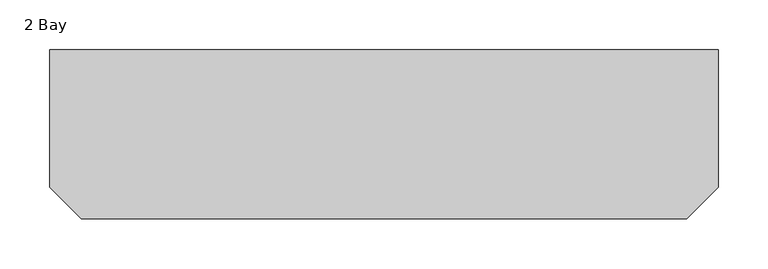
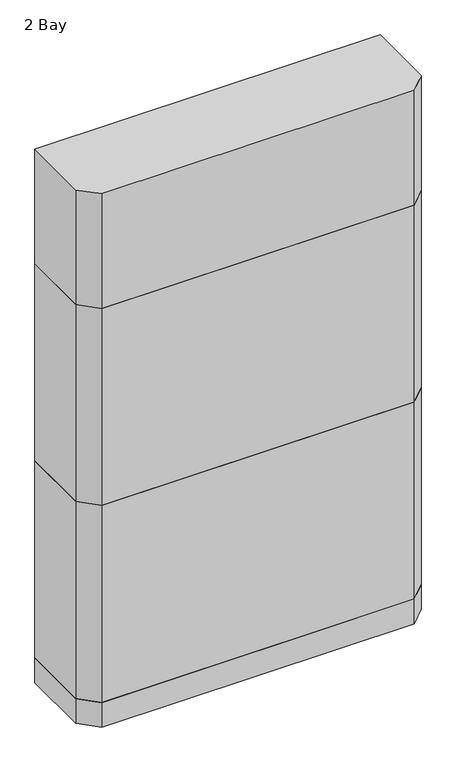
"""IFC4 building model written with IfcOpenShell, lengths in millimetres: proxy geometry, Whole House Battery : 2 Bay."""

from ifc_helpers import new_model, si_unit, frame, origin, origin_with_axes, place, context, project, spatial, polyline, outline, extrude, source, transform, mapped, element, save


def proxy_2_bay_e269944b(model_context):
    return source(origin(), model_context, "Body", "SweptSolid", [
        extrude(outline(polyline([(336.55, 85.09), (336.55, -53.34), (304.8, -85.09), (-304.8, -85.09), (-336.55, -53.34), (-336.55, 85.09), (336.55, 85.09)])), origin_with_axes(), (0.0, 0.0, 1.0), 50.8),
        extrude(outline(polyline([(336.55, 85.09), (336.55, -53.34), (304.8, -85.09), (-304.8, -85.09), (-336.55, -53.34), (-336.55, 85.09), (336.55, 85.09)])), frame((0.0, 0.0, 50.8), z_axis=(0.0, 0.0, 1.0), x_axis=(1.0, 0.0, 0.0)), (0.0, 0.0, 1.0), 406.4),
        extrude(outline(polyline([(336.55, 85.09), (336.55, -53.34), (304.8, -85.09), (-304.8, -85.09), (-336.55, -53.34), (-336.55, 85.09), (336.55, 85.09)])), frame((0.0, 0.0, 863.6), z_axis=(0.0, 0.0, 1.0), x_axis=(1.0, 0.0, 0.0)), (0.0, 0.0, 1.0), 236.22),
        extrude(outline(polyline([(336.55, 85.09), (336.55, -53.34), (304.8, -85.09), (-304.8, -85.09), (-336.55, -53.34), (-336.55, 85.09), (336.55, 85.09)])), frame((0.0, 0.0, 457.2), z_axis=(0.0, 0.0, 1.0), x_axis=(1.0, 0.0, 0.0)), (0.0, 0.0, 1.0), 406.4),
    ])


if __name__ == "__main__":
    model = new_model("IFC4")
    model_context = context("Model", 3, world=origin())
    ifc_project = project(units=[si_unit("LENGTHUNIT", "METRE", prefix="MILLI")], contexts=[model_context])
    site = spatial("IfcSite", under=ifc_project)
    building = spatial("IfcBuilding", under=site)
    placement = place(None, origin())
    proxy_2_bay_shape = proxy_2_bay_e269944b(model_context)
    element("IfcBuildingElementProxy", 1, Name="Whole House Battery : 2 Bay", ObjectType="Whole House Battery : 2 Bay", at=placement, inside=building, context=model_context, shape_type="MappedRepresentation", body=[
        mapped(proxy_2_bay_shape, transform((0.0, 0.0, 0.0), x_axis=(1.0, 0.0, 0.0), y_axis=(0.0, 1.0, 0.0), z_axis=(0.0, 0.0, 1.0))),
    ])
    save(model, "model.ifc")
